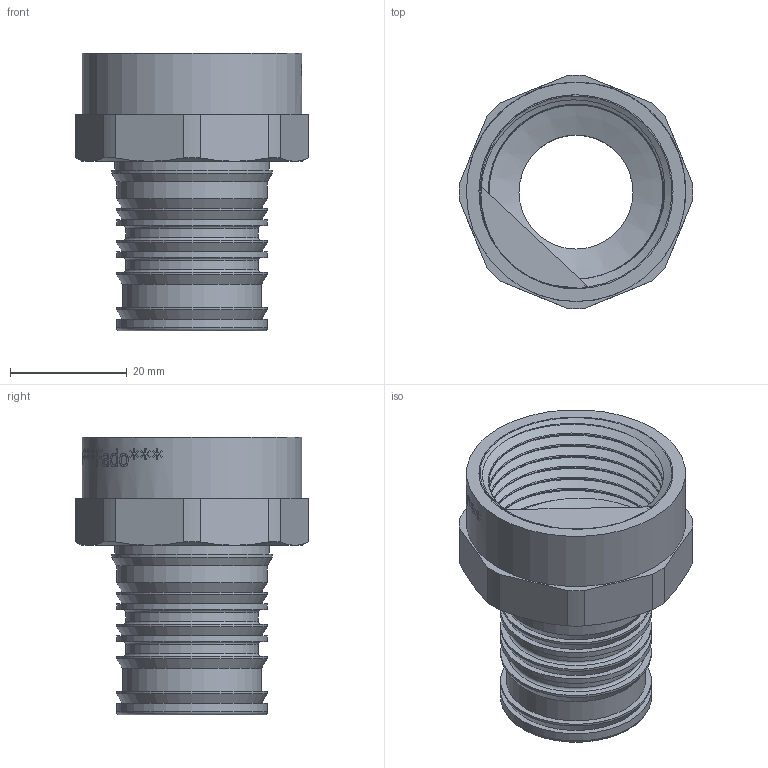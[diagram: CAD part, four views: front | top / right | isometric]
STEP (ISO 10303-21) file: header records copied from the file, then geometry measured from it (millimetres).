
FILE_DESCRIPTION(/* description */ (''),/* implementation_level */ '2;1');
FILE_NAME(/* name */ 'C:\Users\Doom\Desktop\Фадотех\Пресс\HDM17 15.01.2020\HDM17 15.01.2020.stp',/* time_stamp */ '2022-08-11T18:24:54+03:00',/* author */ ('Doom'),/* organization */ (''),/* preprocessor_version */ 'ST-DEVELOPER v18',/* originating_system */ 'Autodesk Inventor 2020',/* authorisation */ '');
FILE_SCHEMA (('AUTOMOTIVE_DESIGN { 1 0 10303 214 3 1 1 }'));
Length unit declared in the file: millimetre
Products named in the file (1): 16 Model 18.12.2019
Bounding box: 39.99 x 39.99 x 47.5 mm (x, y, z)
Volume: 12518.9 mm3; surface area: 15342.3 mm2
Topology: 2 solids, 2 shells, 527 faces, 1468 edges, 986 vertices
Faces by surface type: bspline 329, plane 112, cylinder 64, cone 17, torus 5
Full cylindrical faces by diameter (mm): 19.5 x1, 22.6 x2, 23.8 x1, 25.8 x8, 26.5 x1, 27.5 x1, 29.776 x6, 33.2 x2, 37.5 x1
Entity records: 26771 total; most frequent: CARTESIAN_POINT 15305, ORIENTED_EDGE 2928, EDGE_CURVE 1464, DIRECTION 1401, VERTEX_POINT 984, B_SPLINE_CURVE_WITH_KNOTS 681, EDGE_LOOP 574, LINE 531
